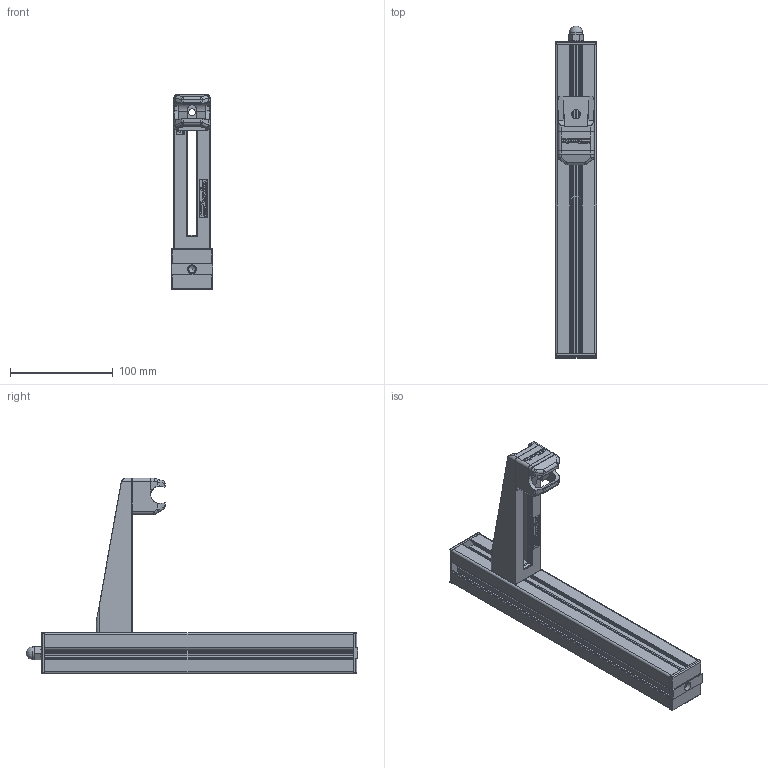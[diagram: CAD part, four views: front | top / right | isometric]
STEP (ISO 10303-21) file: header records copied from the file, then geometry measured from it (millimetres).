
FILE_DESCRIPTION(/* description */ (''),/* implementation_level */ '2;1');
FILE_NAME(/* name */ '\\carryline.intra\privat\users\mathias\Desktop\Tillfälliga filer\300-0900.stp',/* time_stamp */ '2018-11-30T08:28:50+01:00',/* author */ ('PL'),/* organization */ (''),/* preprocessor_version */ 'ST-DEVELOPER v17',/* originating_system */ 'Autodesk Inventor 2018',/* authorisation */ '');
FILE_SCHEMA (('AUTOMOTIVE_DESIGN { 1 0 10303 214 3 1 1 }'));
Length unit declared in the file: millimetre
Products named in the file (7): 300-0900; 300-1000; 300-2150; 100-2015; 100-1010-01; 100-2016; DIN 1587 - M8
Assembly tree (6 placements, depth 2):
  300-0900
    300-1000
    300-2150
    100-2015
    100-1010-01
    100-2016
    DIN 1587 - M8
Bounding box: 40 x 322.65 x 190.1 mm (x, y, z)
Volume: 249809.4 mm3; surface area: 195673.3 mm2
Topology: 8 solids, 8 shells, 1194 faces, 3005 edges, 1809 vertices
Faces by surface type: plane 622, cylinder 377, bspline 70, sphere 67, torus 49, cone 9
Full cylindrical faces by diameter (mm): 5.1 x8, 6.647 x2, 8.5 x3, 9 x1, 12.5 x1
Entity records: 37316 total; most frequent: CARTESIAN_POINT 8167, DIRECTION 5991, ORIENTED_EDGE 5840, EDGE_CURVE 2920, AXIS2_PLACEMENT_3D 2014, LINE 1963, VECTOR 1963, VERTEX_POINT 1809
